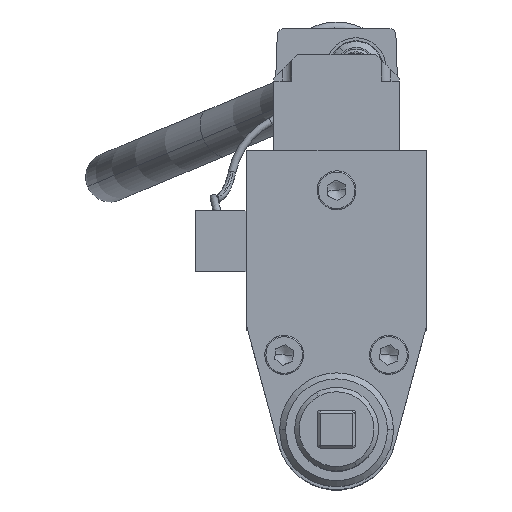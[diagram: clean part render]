
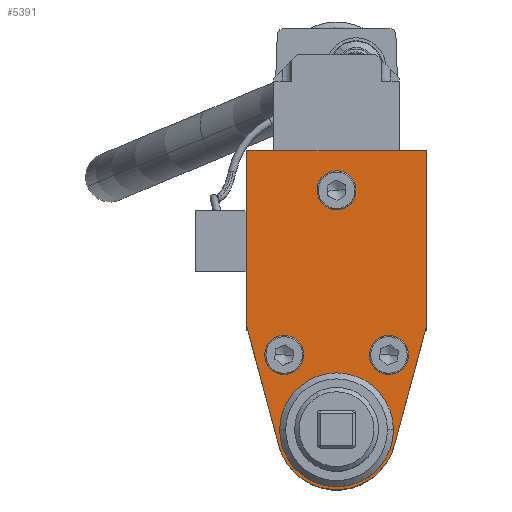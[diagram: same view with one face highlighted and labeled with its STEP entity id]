
A CAD part, top view. The second image highlights one B-rep face of the part: STEP entity #5391.
In plain terms, the highlighted planar face has unit normal (0, 0, 1).
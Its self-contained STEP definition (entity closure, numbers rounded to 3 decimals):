
#5244=CARTESIAN_POINT('Vertex',(19.,-63.23,520.1)) ;
#5247=CARTESIAN_POINT('Axis2P3D Location',(0.,-63.23,520.1)) ;
#5251=CARTESIAN_POINT('Vertex',(-19.,-63.23,520.1)) ;
#5266=CARTESIAN_POINT('Axis2P3D Location',(0.,-63.23,520.1)) ;
#5278=CARTESIAN_POINT('Axis2P3D Location',(0.,0.,520.1)) ;
#5283=CARTESIAN_POINT('Line Origine',(0.,30.,520.1)) ;
#5287=CARTESIAN_POINT('Vertex',(30.,30.,520.1)) ;
#5289=CARTESIAN_POINT('Vertex',(-30.,30.,520.1)) ;
#5292=CARTESIAN_POINT('Line Origine',(-30.,0.729,520.1)) ;
#5296=CARTESIAN_POINT('Vertex',(-30.,-28.543,520.1)) ;
#5299=CARTESIAN_POINT('Line Origine',(-24.659,-48.474,520.1)) ;
#5303=CARTESIAN_POINT('Vertex',(-19.319,-68.406,520.1)) ;
#5306=CARTESIAN_POINT('Axis2P3D Location',(0.,-63.23,520.1)) ;
#5310=CARTESIAN_POINT('Vertex',(19.319,-68.406,520.1)) ;
#5313=CARTESIAN_POINT('Line Origine',(24.659,-48.474,520.1)) ;
#5317=CARTESIAN_POINT('Vertex',(30.,-28.543,520.1)) ;
#5320=CARTESIAN_POINT('Line Origine',(30.,0.729,520.1)) ;
#5333=CARTESIAN_POINT('Axis2P3D Location',(0.,16.77,520.1)) ;
#5337=CARTESIAN_POINT('Vertex',(3.794,14.697,520.1)) ;
#5339=CARTESIAN_POINT('Vertex',(-3.794,18.843,520.1)) ;
#5342=CARTESIAN_POINT('Axis2P3D Location',(0.,16.77,520.1)) ;
#5351=CARTESIAN_POINT('Axis2P3D Location',(17.5,-38.23,520.1)) ;
#5355=CARTESIAN_POINT('Vertex',(21.294,-40.303,520.1)) ;
#5357=CARTESIAN_POINT('Vertex',(13.706,-36.157,520.1)) ;
#5360=CARTESIAN_POINT('Axis2P3D Location',(17.5,-38.23,520.1)) ;
#5369=CARTESIAN_POINT('Axis2P3D Location',(-17.5,-38.23,520.1)) ;
#5373=CARTESIAN_POINT('Vertex',(-13.706,-40.303,520.1)) ;
#5375=CARTESIAN_POINT('Vertex',(-21.294,-36.157,520.1)) ;
#5378=CARTESIAN_POINT('Axis2P3D Location',(-17.5,-38.23,520.1)) ;
#5248=DIRECTION('Axis2P3D Direction',(0.,0.,-1.)) ;
#5267=DIRECTION('Axis2P3D Direction',(0.,0.,-1.)) ;
#5279=DIRECTION('Axis2P3D Direction',(0.,0.,-1.)) ;
#5280=DIRECTION('Axis2P3D XDirection',(-1.,0.,0.)) ;
#5284=DIRECTION('Vector Direction',(-1.,0.,0.)) ;
#5293=DIRECTION('Vector Direction',(0.,1.,0.)) ;
#5300=DIRECTION('Vector Direction',(-0.259,0.966,0.)) ;
#5307=DIRECTION('Axis2P3D Direction',(0.,0.,-1.)) ;
#5314=DIRECTION('Vector Direction',(0.259,0.966,0.)) ;
#5321=DIRECTION('Vector Direction',(0.,-1.,0.)) ;
#5334=DIRECTION('Axis2P3D Direction',(0.,0.,-1.)) ;
#5343=DIRECTION('Axis2P3D Direction',(0.,0.,-1.)) ;
#5352=DIRECTION('Axis2P3D Direction',(0.,0.,-1.)) ;
#5361=DIRECTION('Axis2P3D Direction',(0.,0.,-1.)) ;
#5370=DIRECTION('Axis2P3D Direction',(0.,0.,-1.)) ;
#5379=DIRECTION('Axis2P3D Direction',(0.,0.,-1.)) ;
#5249=AXIS2_PLACEMENT_3D('Circle Axis2P3D',#5247,#5248,$) ;
#5268=AXIS2_PLACEMENT_3D('Circle Axis2P3D',#5266,#5267,$) ;
#5281=AXIS2_PLACEMENT_3D('Plane Axis2P3D',#5278,#5279,#5280) ;
#5308=AXIS2_PLACEMENT_3D('Circle Axis2P3D',#5306,#5307,$) ;
#5335=AXIS2_PLACEMENT_3D('Circle Axis2P3D',#5333,#5334,$) ;
#5344=AXIS2_PLACEMENT_3D('Circle Axis2P3D',#5342,#5343,$) ;
#5353=AXIS2_PLACEMENT_3D('Circle Axis2P3D',#5351,#5352,$) ;
#5362=AXIS2_PLACEMENT_3D('Circle Axis2P3D',#5360,#5361,$) ;
#5371=AXIS2_PLACEMENT_3D('Circle Axis2P3D',#5369,#5370,$) ;
#5380=AXIS2_PLACEMENT_3D('Circle Axis2P3D',#5378,#5379,$) ;
#5326=ORIENTED_EDGE('',*,*,#5291,.T.) ;
#5327=ORIENTED_EDGE('',*,*,#5298,.T.) ;
#5328=ORIENTED_EDGE('',*,*,#5305,.T.) ;
#5329=ORIENTED_EDGE('',*,*,#5312,.T.) ;
#5330=ORIENTED_EDGE('',*,*,#5319,.T.) ;
#5331=ORIENTED_EDGE('',*,*,#5324,.T.) ;
#5348=ORIENTED_EDGE('',*,*,#5341,.T.) ;
#5349=ORIENTED_EDGE('',*,*,#5346,.T.) ;
#5366=ORIENTED_EDGE('',*,*,#5359,.T.) ;
#5367=ORIENTED_EDGE('',*,*,#5364,.T.) ;
#5384=ORIENTED_EDGE('',*,*,#5377,.T.) ;
#5385=ORIENTED_EDGE('',*,*,#5382,.T.) ;
#5388=ORIENTED_EDGE('',*,*,#5270,.T.) ;
#5389=ORIENTED_EDGE('',*,*,#5253,.T.) ;
#5350=FACE_BOUND('',#5347,.T.) ;
#5368=FACE_BOUND('',#5365,.T.) ;
#5386=FACE_BOUND('',#5383,.T.) ;
#5390=FACE_BOUND('',#5387,.T.) ;
#5285=VECTOR('Line Direction',#5284,1.) ;
#5294=VECTOR('Line Direction',#5293,1.) ;
#5301=VECTOR('Line Direction',#5300,1.) ;
#5315=VECTOR('Line Direction',#5314,1.) ;
#5322=VECTOR('Line Direction',#5321,1.) ;
#5391=ADVANCED_FACE('',(#5332,#5350,#5368,#5386,#5390),#5282,.F.) ;
#5250=CIRCLE('generated circle',#5249,19.) ;
#5269=CIRCLE('generated circle',#5268,19.) ;
#5309=CIRCLE('generated circle',#5308,20.) ;
#5336=CIRCLE('generated circle',#5335,4.324) ;
#5345=CIRCLE('generated circle',#5344,4.324) ;
#5354=CIRCLE('generated circle',#5353,4.324) ;
#5363=CIRCLE('generated circle',#5362,4.324) ;
#5372=CIRCLE('generated circle',#5371,4.324) ;
#5381=CIRCLE('generated circle',#5380,4.324) ;
#5253=EDGE_CURVE('',#5252,#5245,#5250,.T.) ;
#5270=EDGE_CURVE('',#5245,#5252,#5269,.T.) ;
#5291=EDGE_CURVE('',#5288,#5290,#5286,.T.) ;
#5298=EDGE_CURVE('',#5290,#5297,#5295,.F.) ;
#5305=EDGE_CURVE('',#5297,#5304,#5302,.F.) ;
#5312=EDGE_CURVE('',#5304,#5311,#5309,.F.) ;
#5319=EDGE_CURVE('',#5311,#5318,#5316,.T.) ;
#5324=EDGE_CURVE('',#5318,#5288,#5323,.F.) ;
#5341=EDGE_CURVE('',#5338,#5340,#5336,.T.) ;
#5346=EDGE_CURVE('',#5340,#5338,#5345,.T.) ;
#5359=EDGE_CURVE('',#5356,#5358,#5354,.T.) ;
#5364=EDGE_CURVE('',#5358,#5356,#5363,.T.) ;
#5377=EDGE_CURVE('',#5374,#5376,#5372,.T.) ;
#5382=EDGE_CURVE('',#5376,#5374,#5381,.T.) ;
#5325=EDGE_LOOP('',(#5326,#5327,#5328,#5329,#5330,#5331)) ;
#5347=EDGE_LOOP('',(#5348,#5349)) ;
#5365=EDGE_LOOP('',(#5366,#5367)) ;
#5383=EDGE_LOOP('',(#5384,#5385)) ;
#5387=EDGE_LOOP('',(#5388,#5389)) ;
#5332=FACE_OUTER_BOUND('',#5325,.T.) ;
#5286=LINE('Line',#5283,#5285) ;
#5295=LINE('Line',#5292,#5294) ;
#5302=LINE('Line',#5299,#5301) ;
#5316=LINE('Line',#5313,#5315) ;
#5323=LINE('Line',#5320,#5322) ;
#5282=PLANE('Plane',#5281) ;
#5245=VERTEX_POINT('',#5244) ;
#5252=VERTEX_POINT('',#5251) ;
#5288=VERTEX_POINT('',#5287) ;
#5290=VERTEX_POINT('',#5289) ;
#5297=VERTEX_POINT('',#5296) ;
#5304=VERTEX_POINT('',#5303) ;
#5311=VERTEX_POINT('',#5310) ;
#5318=VERTEX_POINT('',#5317) ;
#5338=VERTEX_POINT('',#5337) ;
#5340=VERTEX_POINT('',#5339) ;
#5356=VERTEX_POINT('',#5355) ;
#5358=VERTEX_POINT('',#5357) ;
#5374=VERTEX_POINT('',#5373) ;
#5376=VERTEX_POINT('',#5375) ;
